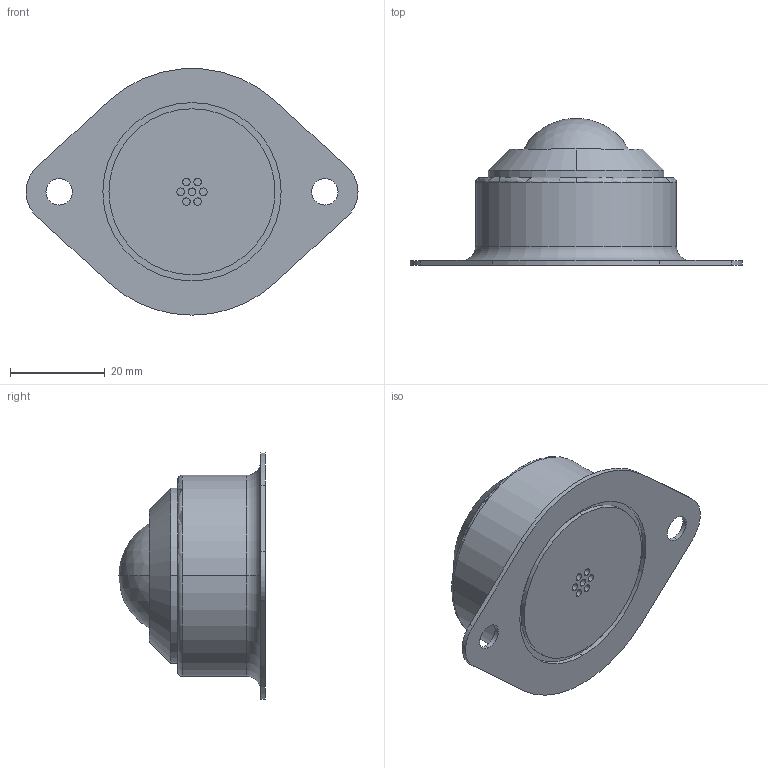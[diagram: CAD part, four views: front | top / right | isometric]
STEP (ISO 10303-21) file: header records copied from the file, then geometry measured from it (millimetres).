
FILE_DESCRIPTION (( 'STEP AP203' ), '1' );
FILE_NAME ('PV120HS-HD.STEP', '2019-02-26T23:51:40', ( '' ), ( '' ), 'SwSTEP 2.0', 'SolidWorks 2013', '' );
FILE_SCHEMA (( 'CONFIG_CONTROL_DESIGN' ));
Length unit declared in the file: millimetre
Products named in the file (1): PV120HS-HD
Bounding box: 70 x 30.96 x 51.91 mm (x, y, z)
Volume: 33871 mm3; surface area: 7938.7 mm2
Topology: 1 solids, 1 shells, 56 faces, 126 edges, 84 vertices
Faces by surface type: cylinder 31, plane 17, torus 4, cone 2, sphere 2
Entity records: 1882 total; most frequent: CARTESIAN_POINT 459, DIRECTION 317, ORIENTED_EDGE 252, AXIS2_PLACEMENT_3D 136, EDGE_CURVE 126, VERTEX_POINT 84, CIRCLE 79, EDGE_LOOP 72
